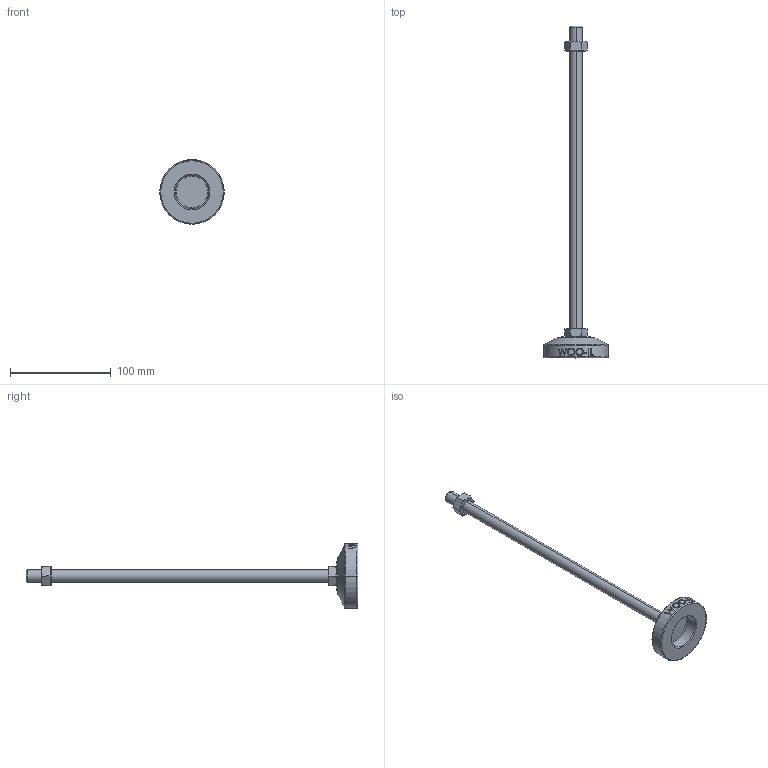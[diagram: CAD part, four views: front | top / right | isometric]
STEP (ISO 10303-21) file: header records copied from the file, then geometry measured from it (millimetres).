
FILE_DESCRIPTION (( 'STEP AP214' ), '1' );
FILE_NAME ('MFZ64-M12-300.step', '2021-01-15T07:05:44', ( '' ), ( '' ), 'SwSTEP 2.0', 'SolidWorks 2019', '' );
FILE_SCHEMA (( 'AUTOMOTIVE_DESIGN' ));
Length unit declared in the file: millimetre
Products named in the file (2): MFZ64-M12-300
Bounding box: 64 x 329 x 64 mm (x, y, z)
Volume: 83975 mm3; surface area: 24318.6 mm2
Topology: 3 solids, 3 shells, 106 faces, 243 edges, 154 vertices
Faces by surface type: plane 48, cylinder 18, bspline 16, cone 14, torus 10
Entity records: 4520 total; most frequent: CARTESIAN_POINT 2177, ORIENTED_EDGE 486, DIRECTION 439, EDGE_CURVE 243, AXIS2_PLACEMENT_3D 170, VERTEX_POINT 154, EDGE_LOOP 119, FACE_OUTER_BOUND 106
